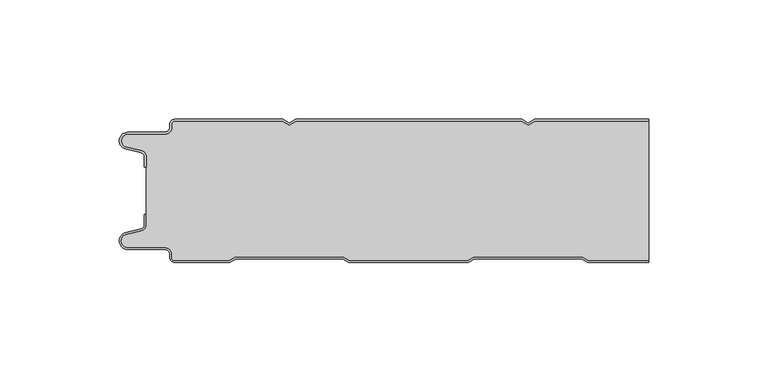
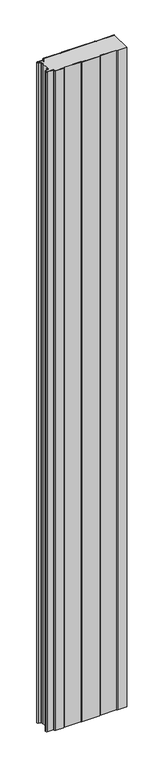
"""IFC4 building model written with IfcOpenShell, lengths in millimetres: plate geometry, PMH_Curtain-PaneL-Standard : ACH_PMH_Stone-wool-Panel_60M."""

from ifc_helpers import new_model, si_unit, point, frame_2d, origin, origin_with_axes, place, context, project, spatial, polyline, circle_curve, trimmed, segment, composite_curve, outline, extrude, source, transform, mapped, element, save


def plate_c8ef7cc6(model_context):
    return source(origin(), model_context, "Body", "SweptSolid", [
        extrude(outline(composite_curve([segment(trimmed(circle_curve(frame_2d((-102.0119739, -15.878557)), 2.0), [point((-100.0119739, -15.878557))], [point((-101.5620718, -13.9298169))], True, "CARTESIAN"), True, "CONTINUOUS"), segment(polyline([(-101.5620718, -13.9298169), (-107.7217978, -12.507732)]), True, "CONTINUOUS"), segment(trimmed(circle_curve(frame_2d((-106.9119739, -9.0)), 3.6), [point((-107.7217978, -12.507732))], [point((-106.9119739, -5.4))], False, "CARTESIAN"), True, "CONTINUOUS"), segment(polyline([(-106.9119739, -5.4), (-91.4119739, -5.4)]), True, "CONTINUOUS"), segment(trimmed(circle_curve(frame_2d((-91.4119739, -3.4)), 2.0), [point((-91.4119739, -5.4))], [point((-89.4119739, -3.4))], True, "CARTESIAN"), True, "CONTINUOUS"), segment(polyline([(-89.4119739, -3.4), (-89.4119739, -2.0)]), True, "CONTINUOUS"), segment(trimmed(circle_curve(frame_2d((-87.4119739, -2.0)), 2.0), [point((-89.4119739, -2.0))], [point((-87.4119739, 0.0))], False, "CARTESIAN"), True, "CONTINUOUS"), segment(polyline([(-87.4119739, 0.0), (-42.1119734, 0.0), (-39.4119739, -1.5588455), (-36.7119745, 0.0), (57.8880266, 0.0), (60.5880261, -1.5588455), (63.2880255, 0.0), (111.0119739, 0.0), (111.0119739, -0.8), (63.5023849, -0.8), (60.5880261, -2.482606), (57.6736672, -0.8), (-36.4976151, -0.8), (-39.4119739, -2.482606), (-42.3263328, -0.8), (-87.4119739, -0.8)]), True, "CONTINUOUS"), segment(trimmed(circle_curve(frame_2d((-87.4119739, -2.0)), 1.2), [point((-87.4119739, -0.8))], [point((-88.6119739, -2.0))], True, "CARTESIAN"), True, "CONTINUOUS"), segment(polyline([(-88.6119739, -2.0), (-88.6119739, -3.4)]), True, "CONTINUOUS"), segment(trimmed(circle_curve(frame_2d((-91.4119739, -3.4)), 2.8), [point((-88.6119739, -3.4))], [point((-91.4119739, -6.2))], False, "CARTESIAN"), True, "CONTINUOUS"), segment(polyline([(-91.4119739, -6.2), (-106.9119739, -6.2)]), True, "CONTINUOUS"), segment(trimmed(circle_curve(frame_2d((-106.9119739, -9.0)), 2.8), [point((-106.9119739, -6.2))], [point((-107.541837, -11.7282362))], True, "CARTESIAN"), True, "CONTINUOUS"), segment(polyline([(-107.541837, -11.7282362), (-101.3821109, -13.150321)]), True, "CONTINUOUS"), segment(trimmed(circle_curve(frame_2d((-102.0119739, -15.878557)), 2.8), [point((-101.3821109, -13.150321))], [point((-99.2119739, -15.878557))], False, "CARTESIAN"), True, "CONTINUOUS"), segment(polyline([(-99.2119739, -15.878557), (-99.2119739, -20.0), (-100.0119739, -20.0), (-100.0119739, -15.878557)]), True, "CONTINUOUS")], self_intersect=False)), origin_with_axes(), (0.0, 0.0, 1.0), 1945.7507136),
        extrude(outline(composite_curve([segment(polyline([(-99.2119739, -44.121443), (-99.2119739, -15.8785573)]), True, "CONTINUOUS"), segment(trimmed(circle_curve(frame_2d((-102.0119739, -15.8785573)), 2.8), [point((-99.2119739, -15.8785573))], [point((-101.3821109, -13.1503212))], True, "CARTESIAN"), True, "CONTINUOUS"), segment(polyline([(-101.3821109, -13.1503212), (-107.541837, -11.7282362)]), True, "CONTINUOUS"), segment(trimmed(circle_curve(frame_2d((-106.911974, -9.0)), 2.8), [point((-107.541837, -11.7282362))], [point((-106.911974, -6.2))], False, "CARTESIAN"), True, "CONTINUOUS"), segment(polyline([(-106.911974, -6.2), (-91.411974, -6.2)]), True, "CONTINUOUS"), segment(trimmed(circle_curve(frame_2d((-91.411974, -3.4)), 2.8), [point((-91.411974, -6.2))], [point((-88.611974, -3.4))], True, "CARTESIAN"), True, "CONTINUOUS"), segment(polyline([(-88.611974, -3.4), (-88.611974, -2.0)]), True, "CONTINUOUS"), segment(trimmed(circle_curve(frame_2d((-87.411974, -2.0)), 1.2), [point((-88.611974, -2.0))], [point((-87.411974, -0.8))], False, "CARTESIAN"), True, "CONTINUOUS"), segment(polyline([(-87.411974, -0.8), (-42.3263329, -0.8), (-39.411974, -2.482606), (-36.4976152, -0.8), (57.6736671, -0.8), (60.588026, -2.482606), (63.5023848, -0.8), (111.0119739, -0.8), (111.0119739, -59.2), (85.7985382, -59.2), (83.2004606, -57.7), (37.9717445, -57.7), (35.3736669, -59.2), (-14.2014618, -59.2), (-16.7995394, -57.7), (-62.0282555, -57.7), (-64.6263331, -59.2), (-87.4119739, -59.2)]), True, "CONTINUOUS"), segment(trimmed(circle_curve(frame_2d((-87.4119739, -58.0)), 1.2), [point((-87.4119739, -59.2))], [point((-88.6119739, -58.0))], False, "CARTESIAN"), True, "CONTINUOUS"), segment(polyline([(-88.6119739, -58.0), (-88.6119739, -56.5999998)]), True, "CONTINUOUS"), segment(trimmed(circle_curve(frame_2d((-91.4119739, -56.5999998)), 2.8), [point((-88.6119739, -56.5999998))], [point((-91.4119739, -53.7999998))], True, "CARTESIAN"), True, "CONTINUOUS"), segment(polyline([(-91.4119739, -53.7999998), (-106.9119739, -53.7999998)]), True, "CONTINUOUS"), segment(trimmed(circle_curve(frame_2d((-106.9119739, -51.0)), 2.7999998), [point((-106.9119739, -53.7999998))], [point((-107.5418369, -48.271764))], False, "CARTESIAN"), True, "CONTINUOUS"), segment(polyline([(-107.5418369, -48.271764), (-101.3821109, -46.8496792)]), True, "CONTINUOUS"), segment(trimmed(circle_curve(frame_2d((-102.0119739, -44.121443)), 2.8), [point((-101.3821109, -46.8496792))], [point((-99.2119739, -44.121443))], True, "CARTESIAN"), True, "CONTINUOUS")], self_intersect=False)), origin_with_axes(), (0.0, 0.0, 1.0), 1945.7507136),
        extrude(outline(composite_curve([segment(trimmed(circle_curve(frame_2d((-87.4119739, -58.0)), 2.0), [point((-87.4119739, -60.0))], [point((-89.4119739, -58.0))], False, "CARTESIAN"), True, "CONTINUOUS"), segment(polyline([(-89.4119739, -58.0), (-89.4119739, -56.6)]), True, "CONTINUOUS"), segment(trimmed(circle_curve(frame_2d((-91.4119739, -56.6)), 2.0), [point((-89.4119739, -56.6))], [point((-91.4119739, -54.6))], True, "CARTESIAN"), True, "CONTINUOUS"), segment(polyline([(-91.4119739, -54.6), (-106.9119739, -54.6)]), True, "CONTINUOUS"), segment(trimmed(circle_curve(frame_2d((-106.9119739, -51.0)), 3.6), [point((-106.9119739, -54.6))], [point((-107.7217979, -47.4922678))], False, "CARTESIAN"), True, "CONTINUOUS"), segment(polyline([(-107.7217979, -47.4922678), (-101.5620718, -46.070183)]), True, "CONTINUOUS"), segment(trimmed(circle_curve(frame_2d((-102.0119739, -44.121443)), 2.0), [point((-101.5620718, -46.070183))], [point((-100.0119739, -44.121443))], True, "CARTESIAN"), True, "CONTINUOUS"), segment(polyline([(-100.0119739, -44.121443), (-100.0119739, -40.0), (-99.2119739, -40.0), (-99.2119739, -44.121443)]), True, "CONTINUOUS"), segment(trimmed(circle_curve(frame_2d((-102.0119739, -44.121443)), 2.8), [point((-99.2119739, -44.121443))], [point((-101.3821109, -46.8496792))], False, "CARTESIAN"), True, "CONTINUOUS"), segment(polyline([(-101.3821109, -46.8496792), (-107.5418369, -48.271764)]), True, "CONTINUOUS"), segment(trimmed(circle_curve(frame_2d((-106.9119739, -51.0)), 2.8), [point((-107.5418369, -48.271764))], [point((-106.9119739, -53.8))], True, "CARTESIAN"), True, "CONTINUOUS"), segment(polyline([(-106.9119739, -53.8), (-91.4119739, -53.8)]), True, "CONTINUOUS"), segment(trimmed(circle_curve(frame_2d((-91.4119739, -56.6)), 2.8), [point((-91.4119739, -53.8))], [point((-88.6119739, -56.6))], False, "CARTESIAN"), True, "CONTINUOUS"), segment(polyline([(-88.6119739, -56.6), (-88.6119739, -58.0)]), True, "CONTINUOUS"), segment(trimmed(circle_curve(frame_2d((-87.4119739, -58.0)), 1.2), [point((-88.6119739, -58.0))], [point((-87.4119739, -59.2))], True, "CARTESIAN"), True, "CONTINUOUS"), segment(polyline([(-87.4119739, -59.2), (-64.6263331, -59.2), (-62.0282555, -57.7), (-16.7995394, -57.7), (-14.2014618, -59.2), (35.3736669, -59.2), (37.9717445, -57.7), (83.2004606, -57.7), (85.7985382, -59.2), (111.0119739, -59.2), (111.0119739, -60.0), (85.584179, -60.0), (82.9861014, -58.5), (38.1861037, -58.5), (35.5880261, -60.0), (-14.415821, -60.0), (-17.0138986, -58.5), (-61.8138963, -58.5), (-64.4119739, -60.0), (-87.4119739, -60.0)]), True, "CONTINUOUS")], self_intersect=False)), origin_with_axes(), (0.0, 0.0, 1.0), 1945.7507136),
    ])


if __name__ == "__main__":
    model = new_model("IFC4")
    model_context = context("Model", 3, world=origin())
    ifc_project = project(units=[si_unit("LENGTHUNIT", "METRE", prefix="MILLI")], contexts=[model_context])
    site = spatial("IfcSite", under=ifc_project)
    building = spatial("IfcBuilding", under=site)
    placement = place(None, origin())
    plate_shape = plate_c8ef7cc6(model_context)
    element("IfcPlate", 1, ObjectType="PMH_Curtain-PaneL-Standard : ACH_PMH_Stone-wool-Panel_60M", at=placement, inside=building, context=model_context, shape_type="MappedRepresentation", body=[
        mapped(plate_shape, transform((0.0, 0.0, 0.0), x_axis=(1.0, 0.0, 0.0), y_axis=(0.0, 1.0, 0.0), z_axis=(0.0, 0.0, 1.0))),
    ])
    save(model, "model.ifc")
